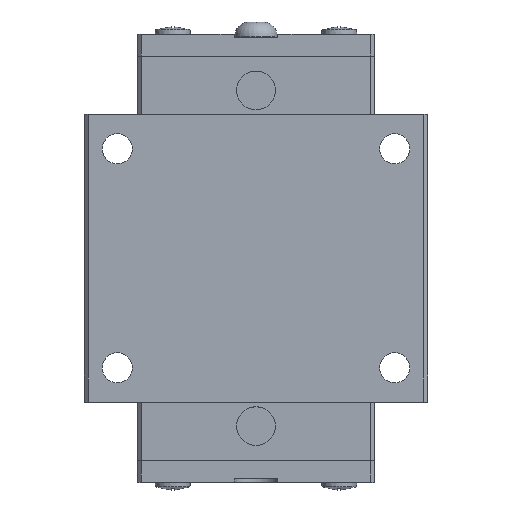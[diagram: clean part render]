
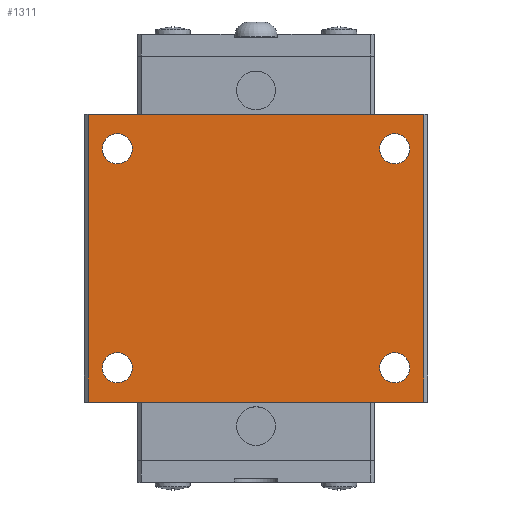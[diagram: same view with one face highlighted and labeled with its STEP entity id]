
A CAD part, top view. The second image highlights one B-rep face of the part: STEP entity #1311.
In plain terms, the highlighted planar face has unit normal (0, 0, 1).
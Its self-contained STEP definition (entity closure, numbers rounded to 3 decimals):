
#1311=ADVANCED_FACE('',(#3299,#3301,#3303,#3305,#3307),#3309,.T.);
#3299=FACE_BOUND('',#3300,.T.);
#3300=EDGE_LOOP('',(#5024,#5025,#5026,#5027));
#3301=FACE_BOUND('',#3302,.T.);
#3302=EDGE_LOOP('',(#5028));
#3303=FACE_BOUND('',#3304,.T.);
#3304=EDGE_LOOP('',(#5029));
#3305=FACE_BOUND('',#3306,.T.);
#3306=EDGE_LOOP('',(#5030));
#3307=FACE_BOUND('',#3308,.T.);
#3308=EDGE_LOOP('',(#5031));
#3309=PLANE('',#3310);
#3310=AXIS2_PLACEMENT_3D('',#3311,#3312,#3313);
#3311=CARTESIAN_POINT('',(0.,50.401,24.));
#3312=DIRECTION('',(0.,0.,1.));
#3313=DIRECTION('',(-1.,0.,0.));
#5024=ORIENTED_EDGE('',*,*,#5981,.T.);
#5025=ORIENTED_EDGE('',*,*,#6068,.T.);
#5026=ORIENTED_EDGE('',*,*,#5963,.T.);
#5027=ORIENTED_EDGE('',*,*,#6067,.F.);
#5028=ORIENTED_EDGE('',*,*,#6069,.T.);
#5029=ORIENTED_EDGE('',*,*,#6070,.T.);
#5030=ORIENTED_EDGE('',*,*,#6071,.T.);
#5031=ORIENTED_EDGE('',*,*,#6072,.T.);
#5963=EDGE_CURVE('',#6873,#6871,#6874,.T.);
#5981=EDGE_CURVE('',#6908,#6906,#6909,.T.);
#6067=EDGE_CURVE('',#6908,#6871,#7050,.T.);
#6068=EDGE_CURVE('',#6906,#6873,#7051,.T.);
#6069=EDGE_CURVE('',#7052,#7052,#7053,.T.);
#6070=EDGE_CURVE('',#7054,#7054,#7055,.T.);
#6071=EDGE_CURVE('',#7056,#7056,#7057,.T.);
#6072=EDGE_CURVE('',#7058,#7058,#7059,.T.);
#6871=VERTEX_POINT('',#8729);
#6873=VERTEX_POINT('',#8733);
#6874=LINE('',#8734,#8735);
#6906=VERTEX_POINT('',#8803);
#6908=VERTEX_POINT('',#8807);
#6909=LINE('',#8808,#8809);
#7050=LINE('',#9341,#9342);
#7051=LINE('',#9344,#9345);
#7052=VERTEX_POINT('',#9347);
#7053=CIRCLE('',#9348,2.067);
#7054=VERTEX_POINT('',#9352);
#7055=CIRCLE('',#9353,2.067);
#7056=VERTEX_POINT('',#9357);
#7057=CIRCLE('',#9358,2.067);
#7058=VERTEX_POINT('',#9362);
#7059=CIRCLE('',#9363,2.067);
#8729=CARTESIAN_POINT('',(23.,11.001,24.));
#8733=CARTESIAN_POINT('',(-23.,11.001,24.));
#8734=CARTESIAN_POINT('',(-23.,11.001,24.));
#8735=VECTOR('',#8736,1.);
#8736=DIRECTION('',(1.,0.,0.));
#8803=CARTESIAN_POINT('',(-23.,50.401,24.));
#8807=CARTESIAN_POINT('',(23.,50.401,24.));
#8808=CARTESIAN_POINT('',(23.,50.401,24.));
#8809=VECTOR('',#8810,1.);
#8810=DIRECTION('',(-1.,0.,0.));
#9341=CARTESIAN_POINT('',(23.,50.401,24.));
#9342=VECTOR('',#9343,1.);
#9343=DIRECTION('',(0.,-1.,0.));
#9344=CARTESIAN_POINT('',(-23.,50.401,24.));
#9345=VECTOR('',#9346,1.);
#9346=DIRECTION('',(0.,-1.,0.));
#9347=CARTESIAN_POINT('',(21.067,45.701,24.));
#9348=AXIS2_PLACEMENT_3D('',#9349,#9350,#9351);
#9349=CARTESIAN_POINT('',(19.,45.701,24.));
#9350=DIRECTION('',(-0.,-0.,-1.));
#9351=DIRECTION('',(1.,0.,0.));
#9352=CARTESIAN_POINT('',(-16.933,45.701,24.));
#9353=AXIS2_PLACEMENT_3D('',#9354,#9355,#9356);
#9354=CARTESIAN_POINT('',(-19.,45.701,24.));
#9355=DIRECTION('',(-0.,-0.,-1.));
#9356=DIRECTION('',(1.,0.,0.));
#9357=CARTESIAN_POINT('',(-16.933,15.701,24.));
#9358=AXIS2_PLACEMENT_3D('',#9359,#9360,#9361);
#9359=CARTESIAN_POINT('',(-19.,15.701,24.));
#9360=DIRECTION('',(-0.,-0.,-1.));
#9361=DIRECTION('',(1.,0.,0.));
#9362=CARTESIAN_POINT('',(21.067,15.701,24.));
#9363=AXIS2_PLACEMENT_3D('',#9364,#9365,#9366);
#9364=CARTESIAN_POINT('',(19.,15.701,24.));
#9365=DIRECTION('',(-0.,-0.,-1.));
#9366=DIRECTION('',(1.,0.,0.));
